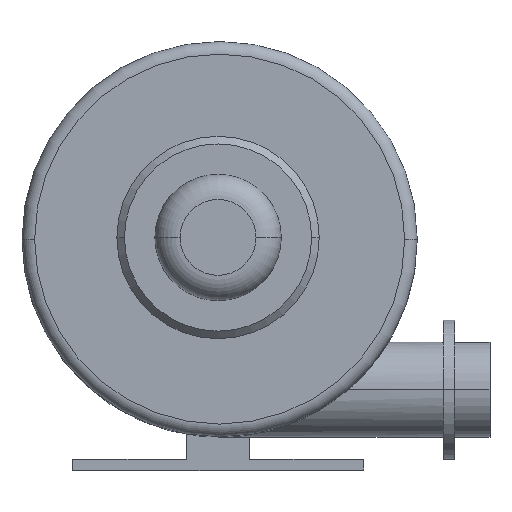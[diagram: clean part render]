
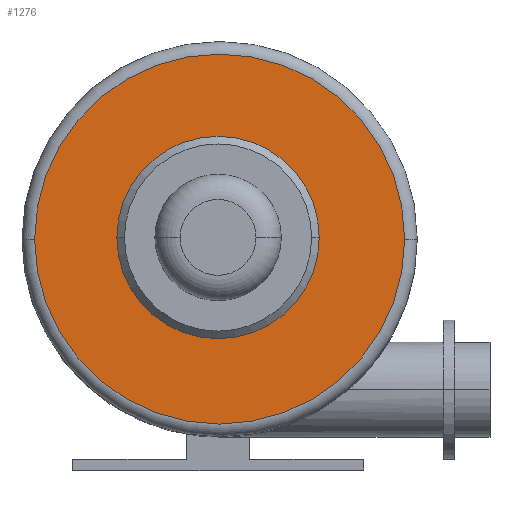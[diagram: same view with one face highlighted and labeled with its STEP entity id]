
A CAD part, top view. The second image highlights one B-rep face of the part: STEP entity #1276.
In plain terms, the highlighted planar face has unit normal (0, 0, 1).
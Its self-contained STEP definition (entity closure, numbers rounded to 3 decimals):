
#44 = AXIS2_PLACEMENT_3D ( 'NONE', #1211, #178, #1399 ) ;
#59 = EDGE_LOOP ( 'NONE', ( #1694, #1869 ) ) ;
#98 = AXIS2_PLACEMENT_3D ( 'NONE', #1166, #134, #229 ) ;
#134 = DIRECTION ( 'NONE',  ( 0., 0., 1. ) ) ;
#146 = DIRECTION ( 'NONE',  ( 1., 0., 0. ) ) ;
#178 = DIRECTION ( 'NONE',  ( 0., 0., 1. ) ) ;
#183 = PLANE ( 'NONE',  #1642 ) ;
#229 = DIRECTION ( 'NONE',  ( 1., 0., 0. ) ) ;
#243 = VERTEX_POINT ( 'NONE', #1573 ) ;
#400 = CARTESIAN_POINT ( 'NONE',  ( -80., 0., 188. ) ) ;
#411 = CIRCLE ( 'NONE', #2188, 80. ) ;
#424 = CARTESIAN_POINT ( 'NONE',  ( 0., 0., 188. ) ) ;
#547 = DIRECTION ( 'NONE',  ( 1., 0., 0. ) ) ;
#580 = DIRECTION ( 'NONE',  ( 1., 0., 0. ) ) ;
#743 = CIRCLE ( 'NONE', #2121, 146.255 ) ;
#888 = VERTEX_POINT ( 'NONE', #1858 ) ;
#1139 = EDGE_CURVE ( 'NONE', #243, #1328, #1545, .T. ) ;
#1166 = CARTESIAN_POINT ( 'NONE',  ( 0., 0., 188. ) ) ;
#1179 = DIRECTION ( 'NONE',  ( 0., 0., 1. ) ) ;
#1211 = CARTESIAN_POINT ( 'NONE',  ( 1.25, -1.25, 188. ) ) ;
#1221 = EDGE_CURVE ( 'NONE', #1729, #888, #2151, .T. ) ;
#1276 = ADVANCED_FACE ( 'NONE', ( #1578, #1831 ), #183, .T. ) ;
#1328 = VERTEX_POINT ( 'NONE', #400 ) ;
#1399 = DIRECTION ( 'NONE',  ( 1., 0., 0. ) ) ;
#1407 = CARTESIAN_POINT ( 'NONE',  ( 1.25, -1.25, 188. ) ) ;
#1420 = EDGE_CURVE ( 'NONE', #1328, #243, #411, .T. ) ;
#1544 = EDGE_CURVE ( 'NONE', #888, #1729, #743, .T. ) ;
#1545 = CIRCLE ( 'NONE', #98, 80. ) ;
#1573 = CARTESIAN_POINT ( 'NONE',  ( 80., 0., 188. ) ) ;
#1578 = FACE_OUTER_BOUND ( 'NONE', #1805, .T. ) ;
#1605 = DIRECTION ( 'NONE',  ( 0., 0., 1. ) ) ;
#1642 = AXIS2_PLACEMENT_3D ( 'NONE', #1407, #1605, #547 ) ;
#1652 = DIRECTION ( 'NONE',  ( 0., 0., 1. ) ) ;
#1694 = ORIENTED_EDGE ( 'NONE', *, *, #1420, .F. ) ;
#1729 = VERTEX_POINT ( 'NONE', #1897 ) ;
#1805 = EDGE_LOOP ( 'NONE', ( #1983, #2010 ) ) ;
#1831 = FACE_BOUND ( 'NONE', #59, .T. ) ;
#1858 = CARTESIAN_POINT ( 'NONE',  ( 147.505, -1.25, 188. ) ) ;
#1869 = ORIENTED_EDGE ( 'NONE', *, *, #1139, .F. ) ;
#1897 = CARTESIAN_POINT ( 'NONE',  ( -145.005, -1.25, 188. ) ) ;
#1983 = ORIENTED_EDGE ( 'NONE', *, *, #1544, .T. ) ;
#2010 = ORIENTED_EDGE ( 'NONE', *, *, #1221, .T. ) ;
#2121 = AXIS2_PLACEMENT_3D ( 'NONE', #2306, #1179, #146 ) ;
#2151 = CIRCLE ( 'NONE', #44, 146.255 ) ;
#2188 = AXIS2_PLACEMENT_3D ( 'NONE', #424, #1652, #580 ) ;
#2306 = CARTESIAN_POINT ( 'NONE',  ( 1.25, -1.25, 188. ) ) ;
